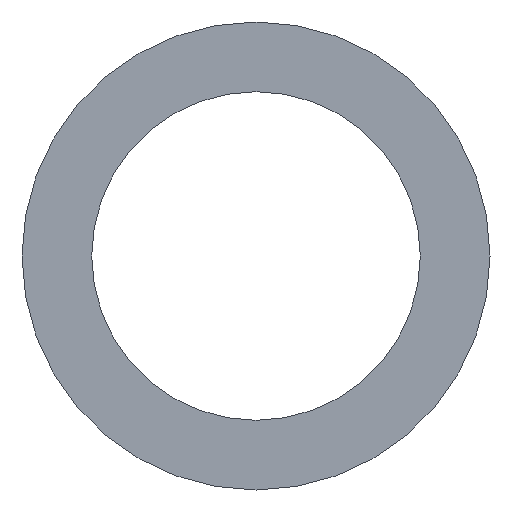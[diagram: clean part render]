
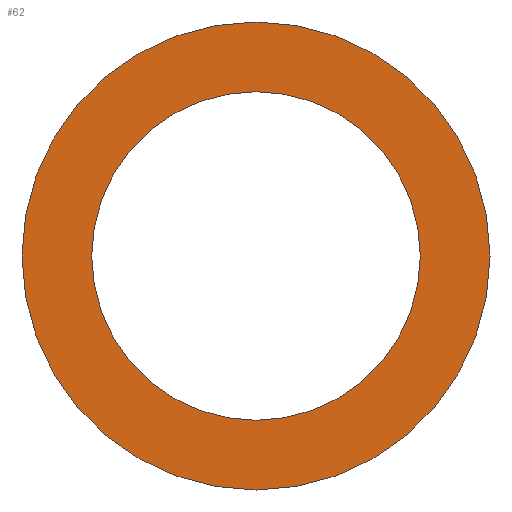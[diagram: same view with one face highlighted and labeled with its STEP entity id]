
A CAD part, front view. The second image highlights one B-rep face of the part: STEP entity #62.
In plain terms, the highlighted planar face has unit normal (0, -1, 0).
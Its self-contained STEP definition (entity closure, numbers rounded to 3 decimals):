
#20=PLANE('',#83);
#26=ORIENTED_EDGE('',*,*,#30,.T.);
#27=ORIENTED_EDGE('',*,*,#32,.F.);
#30=EDGE_CURVE('',#34,#34,#38,.T.);
#32=EDGE_CURVE('',#36,#36,#40,.T.);
#34=VERTEX_POINT('',#106);
#36=VERTEX_POINT('',#111);
#38=CIRCLE('',#78,115.5);
#40=CIRCLE('',#81,164.5);
#46=EDGE_LOOP('',(#26));
#47=EDGE_LOOP('',(#27));
#54=FACE_BOUND('',#46,.T.);
#55=FACE_BOUND('',#47,.T.);
#62=ADVANCED_FACE('',(#54,#55),#20,.F.);
#78=AXIS2_PLACEMENT_3D('',#105,#89,#90);
#81=AXIS2_PLACEMENT_3D('',#110,#95,#96);
#83=AXIS2_PLACEMENT_3D('',#114,#99,#100);
#89=DIRECTION('',(0.,1.,0.));
#90=DIRECTION('',(1.,0.,0.));
#95=DIRECTION('',(0.,1.,0.));
#96=DIRECTION('',(1.,0.,0.));
#99=DIRECTION('',(0.,1.,0.));
#100=DIRECTION('',(0.,0.,1.));
#105=CARTESIAN_POINT('',(0.,-1.5,0.));
#106=CARTESIAN_POINT('',(115.5,-1.5,0.));
#110=CARTESIAN_POINT('',(0.,-1.5,0.));
#111=CARTESIAN_POINT('',(164.5,-1.5,0.));
#114=CARTESIAN_POINT('',(0.,-1.5,0.));
